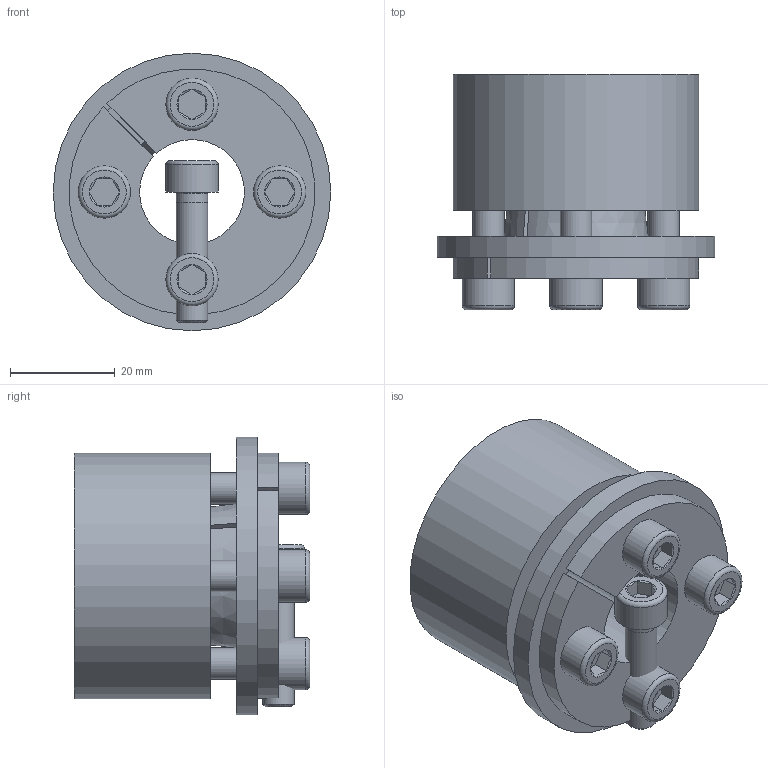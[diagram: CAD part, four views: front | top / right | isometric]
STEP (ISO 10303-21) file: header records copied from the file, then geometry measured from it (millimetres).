
FILE_DESCRIPTION( ( 'Unknown' ), '1' );
FILE_NAME( 'C:/Dokumente und Einstellungen/Sven/Desktop/homepage/cad - homepage/KBS71/KBS 71 - 20 x 47.stp', 'Unknown', ( 'Unknown' ), ( 'Unknown' ), 'XStep 1.0', 'Unknown', ' ' );
FILE_SCHEMA( ( 'automotive_design' ) );
Length unit declared in the file: millimetre
Products named in the file (3): Assem1; KBS 71 - 20 x 47; ISO EN DIN 4762 M6x25
Bounding box: 53 x 45 x 53 mm (x, y, z)
Volume: 99399 mm3; surface area: 38590.2 mm2
Topology: 7 solids, 7 shells, 189 faces, 423 edges, 256 vertices
Faces by surface type: plane 92, cylinder 44, cone 43, torus 10
Full cylindrical faces by diameter (mm): 5 x5, 6 x26, 10 x5, 53 x2
Entity records: 1911 total; most frequent: CARTESIAN_POINT 338, DIRECTION 287, ORIENTED_EDGE 240, EDGE_CURVE 120, AXIS2_PLACEMENT_3D 119, EDGE_LOOP 92, VERTEX_POINT 82, FACE_OUTER_BOUND 72
